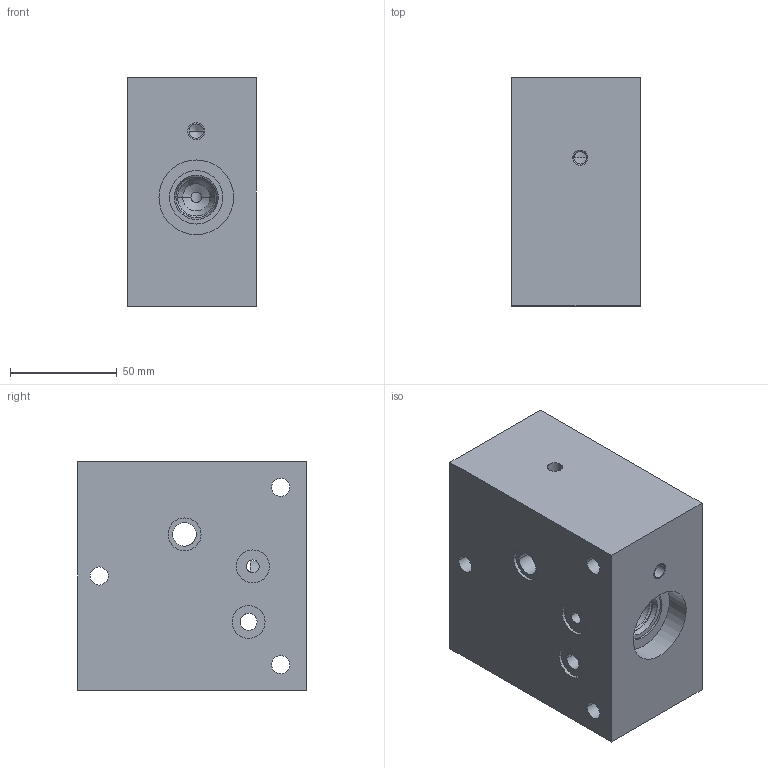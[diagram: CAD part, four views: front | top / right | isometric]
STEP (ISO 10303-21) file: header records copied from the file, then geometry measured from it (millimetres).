
FILE_DESCRIPTION((''),'2;1');
FILE_NAME('1000084756','2025-10-15T10:18:36',('PoolNonAdmin12667190'),(''),'CREO PARAMETRIC BY PTC INC, 2025183','CREO PARAMETRIC BY PTC INC, 2025183','');
FILE_SCHEMA(('AUTOMOTIVE_DESIGN { 1 0 10303 214 1 1 1 1 }'));
Products named in the file (1): 1000084756
Bounding box: 60 x 107 x 107 mm (x, y, z)
Volume: 614427.4 mm3; surface area: 74659.6 mm2
Topology: 1 solids, 7 shells, 151 faces, 548 edges, 425 vertices
Faces by surface type: cylinder 84, cone 45, plane 22
Entity records: 114093 total; most frequent: CARTESIAN_POINT 88434, POLYLINE 17170, DIRECTION 1147, ORIENTED_EDGE 724, PRESENTATION_STYLE_ASSIGNMENT 667, CURVE_STYLE 640, STYLED_ITEM 592, AXIS2_PLACEMENT_3D 404
